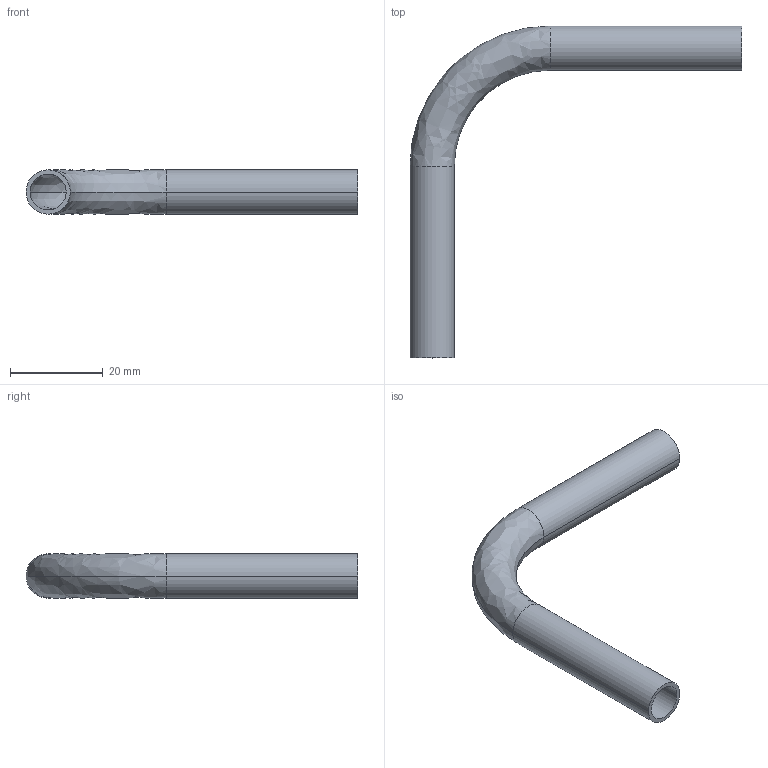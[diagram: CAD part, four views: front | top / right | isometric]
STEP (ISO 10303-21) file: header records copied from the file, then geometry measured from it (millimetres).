
FILE_DESCRIPTION (( 'STEP AP214' ), '1' );
FILE_NAME ('TE2S6L.375-...STEP', '2016-05-22T09:47:37', ( 'eran' ), ( '' ), 'SwSTEP 2.0', 'SolidWorks 2016', '' );
FILE_SCHEMA (( 'AUTOMOTIVE_DESIGN' ));
Length unit declared in the file: millimetre
Products named in the file (1): TE2S6L.375-..
Bounding box: 71.47 x 71.47 x 9.53 mm (x, y, z)
Volume: 2959.3 mm3; surface area: 6698.3 mm2
Topology: 1 solids, 1 shells, 14 faces, 28 edges, 16 vertices
Faces by surface type: cylinder 8, bspline 4, plane 2
Entity records: 450 total; most frequent: CARTESIAN_POINT 119, DIRECTION 70, ORIENTED_EDGE 56, AXIS2_PLACEMENT_3D 31, EDGE_CURVE 28, CIRCLE 20, EDGE_LOOP 16, VERTEX_POINT 16
